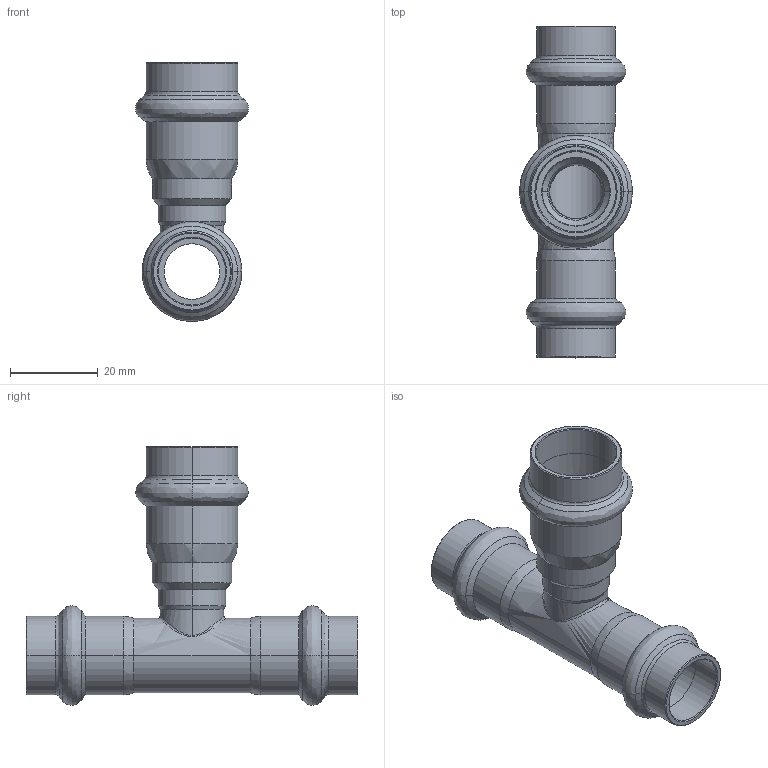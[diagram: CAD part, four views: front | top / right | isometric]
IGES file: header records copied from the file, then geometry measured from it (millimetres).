
Start section: Elysium IGES Interface
Global section: file name: C:\3d modellen sudo\C-Pr VP\SP8130RV\8130RVW151815.igs; native system: CoCreate Modeling 17.00A  17-Jun-2010; preprocessor: CoCreate IGES_3D V2.2; author: Unknown; organization: Unknown; date: 20130131.143519; units: millimetre
Bounding box: 25.7 x 75.51 x 58.88 mm (x, y, z)
Volume: 10038.1 mm3; surface area: 13150.5 mm2
Topology: 1 solids, 1 shells, 131 faces, 269 edges, 147 vertices
Faces by surface type: bspline 131
